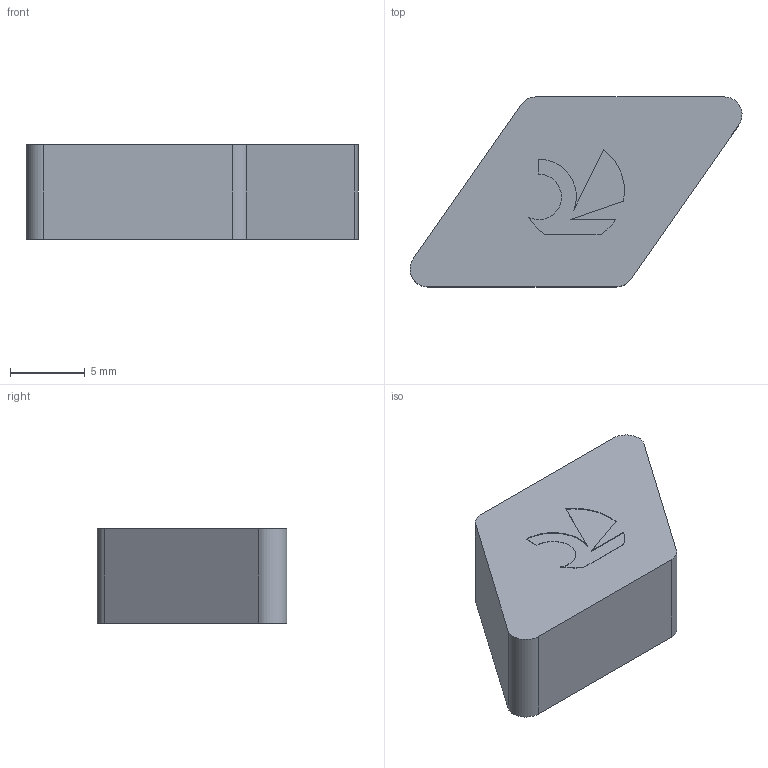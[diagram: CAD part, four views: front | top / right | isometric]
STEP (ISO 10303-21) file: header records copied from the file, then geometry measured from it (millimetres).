
FILE_DESCRIPTION(('no description'),'unknown implementation level');
FILE_NAME('solidhtcucPtsfBV29rlDVaUmF47Wrzs_1.STP',' ',('CIMSOURCE GmbH'),('CADClick - KiM GmbH - www.kimweb.de'),'unknown preprocess','ACIS','unknown authorization');
FILE_SCHEMA(('automotive_design'));
Length unit declared in the file: millimetre
Products named in the file (1): CUT
Bounding box: 22.2 x 12.7 x 6.35 mm (x, y, z)
Volume: 1233.8 mm3; surface area: 757.8 mm2
Topology: 1 solids, 1 shells, 22 faces, 57 edges, 38 vertices
Faces by surface type: plane 12, cylinder 10
Entity records: 1366 total; most frequent: DIRECTION 127, CARTESIAN_POINT 120, STYLED_ITEM 118, PRESENTATION_STYLE_ASSIGNMENT 118, COLOUR_RGB 118, ORIENTED_EDGE 114, EDGE_CURVE 57, CURVE_STYLE 57
